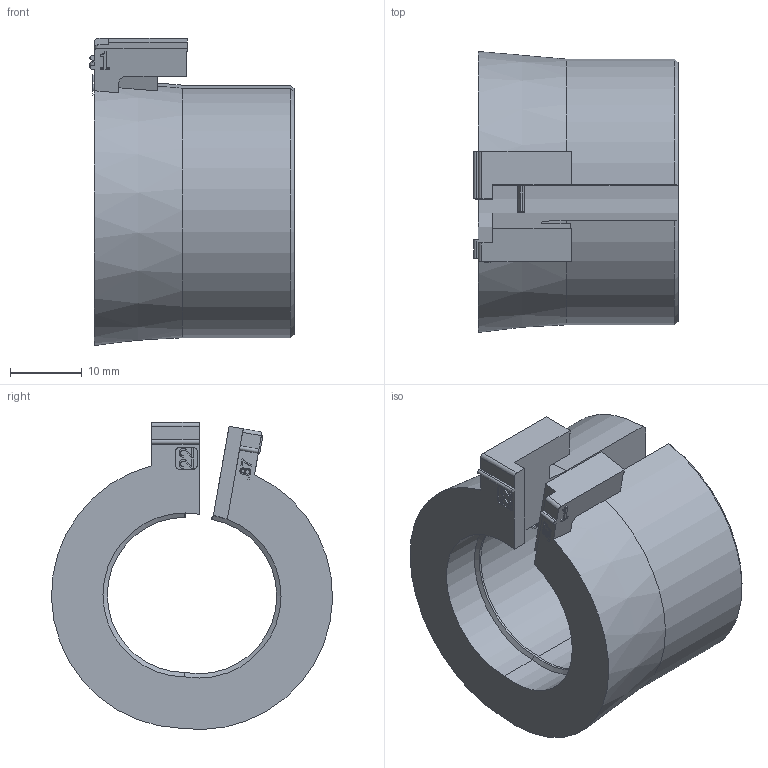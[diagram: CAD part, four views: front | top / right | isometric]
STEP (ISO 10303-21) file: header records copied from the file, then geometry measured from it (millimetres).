
FILE_DESCRIPTION(/* description */ (''),/* implementation_level */ '2;1');
FILE_NAME(/* name */ 'C:\SapWorkDir\Inventor\MP1\ConvertTempPath\87_12_121366_00_A_220530_KDT-X 22.stp',/* time_stamp */ '2022-05-31T14:28:02+02:00',/* author */ ('BAUER'),/* organization */ (''),/* preprocessor_version */ 'ST-DEVELOPER v16.13',/* originating_system */ 'Autodesk Inventor 2018',/* authorisation */ '');
FILE_SCHEMA (('AUTOMOTIVE_DESIGN { 1 0 10303 214 3 1 1 }'));
Length unit declared in the file: millimetre
Products named in the file (1): 121366
Bounding box: 28.4 x 39.1 x 42.74 mm (x, y, z)
Volume: 16646.1 mm3; surface area: 7219.7 mm2
Topology: 1 solids, 1 shells, 153 faces, 408 edges, 266 vertices
Faces by surface type: plane 85, bspline 36, cylinder 24, cone 8
Entity records: 5030 total; most frequent: CARTESIAN_POINT 1307, ORIENTED_EDGE 816, DIRECTION 623, EDGE_CURVE 408, LINE 271, VECTOR 271, VERTEX_POINT 266, AXIS2_PLACEMENT_3D 176
